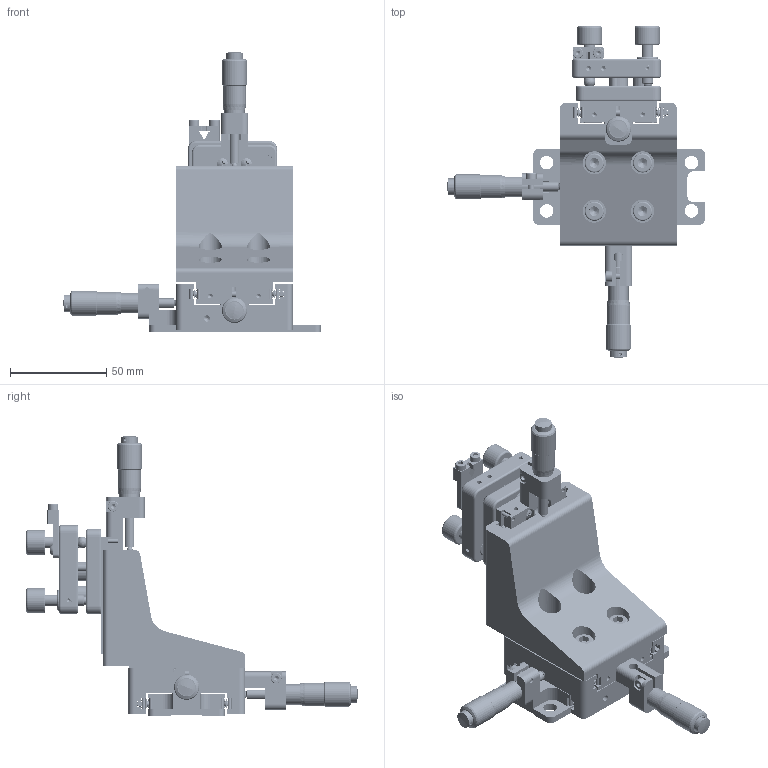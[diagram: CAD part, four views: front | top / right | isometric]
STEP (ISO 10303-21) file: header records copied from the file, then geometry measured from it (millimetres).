
FILE_DESCRIPTION (( 'STEP AP203' ), '1' );
FILE_NAME ('7SAM502R五维光纤调整架（右手型）.STEP', '2022-05-24T06:51:02', ( '' ), ( '' ), 'SwSTEP 2.0', 'SolidWorks 2018', '' );
FILE_SCHEMA (( 'CONFIG_CONTROL_DESIGN' ));
Products named in the file (1): 7SAM502R五维光纤调整架（右手型）
Bounding box: 133.53 x 171.91 x 145.3 mm (x, y, z)
Volume: 242559.4 mm3; surface area: 140895.4 mm2
Topology: 198 solids, 198 shells, 3100 faces, 7545 edges, 4688 vertices
Faces by surface type: plane 1149, cylinder 1070, cone 585, sphere 148, torus 112, bspline 36
Entity records: 141689 total; most frequent: CARTESIAN_POINT 68611, DIRECTION 16410, ORIENTED_EDGE 14290, EDGE_CURVE 7145, AXIS2_PLACEMENT_3D 6515, VERTEX_POINT 4538, EDGE_LOOP 3589, CIRCLE 3450
